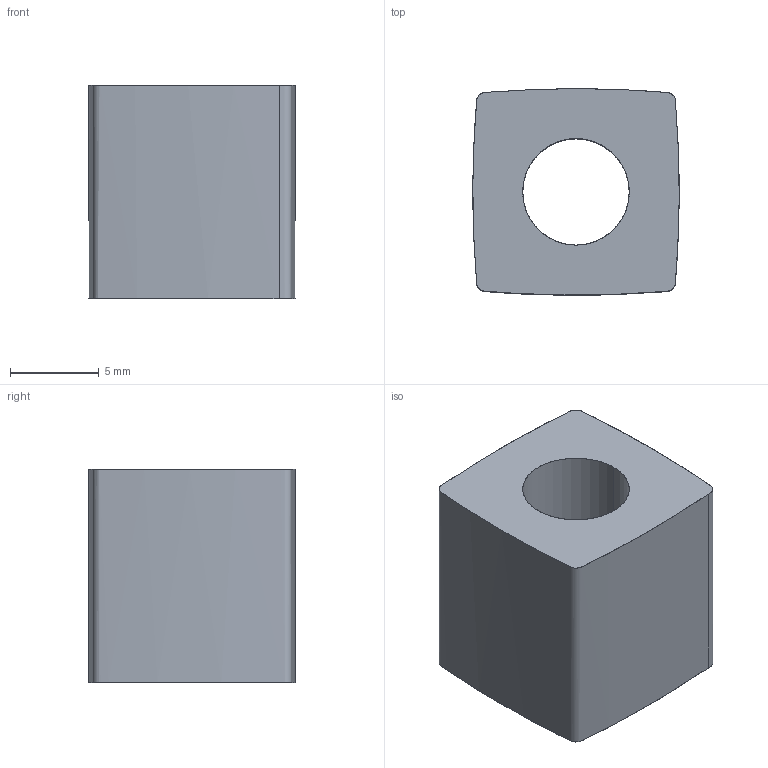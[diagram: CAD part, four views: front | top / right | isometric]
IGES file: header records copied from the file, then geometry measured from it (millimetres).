
Start section: SolidWorks IGES file using analytic representation for surfaces
Global section: file name: C:\Users\Kamkarian\Desktop\PowerFeed06121212.IGS; native system: SolidWorks 2016; preprocessor: SolidWorks 2016; author: Kamkarian; date: 180617.021054; units: millimetre
Bounding box: 11.63 x 11.63 x 12 mm (x, y, z)
Surface area: 960.1 mm2 (no closed solid volume)
Topology: 0 solids, 0 shells, 6 faces, 224 edges, 224 vertices
Faces by surface type: bspline 4, revolution 2
